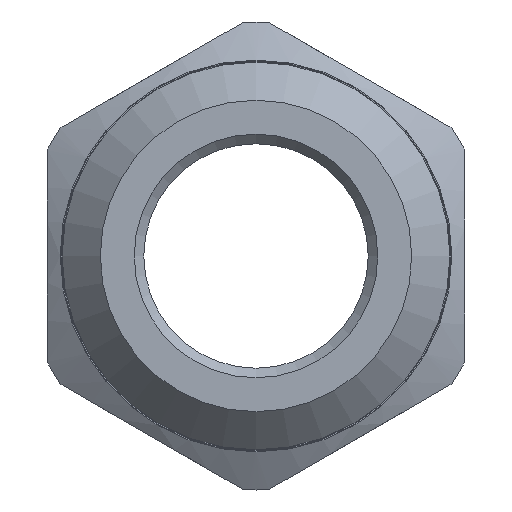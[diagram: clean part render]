
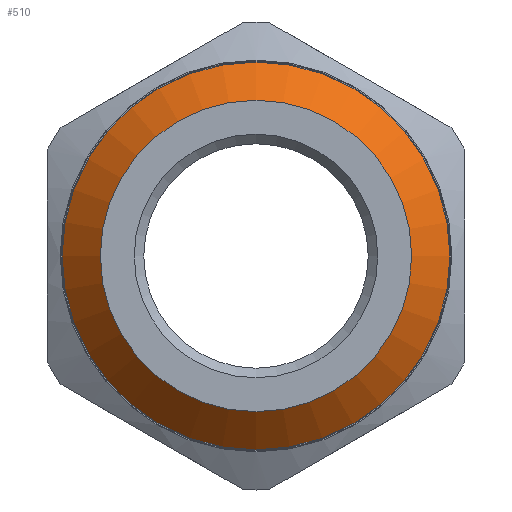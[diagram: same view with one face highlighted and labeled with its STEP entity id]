
A CAD part, front view. The second image highlights one B-rep face of the part: STEP entity #510.
In plain terms, the highlighted conical face has half-angle 45 degrees and reference radius 4.648 mm.
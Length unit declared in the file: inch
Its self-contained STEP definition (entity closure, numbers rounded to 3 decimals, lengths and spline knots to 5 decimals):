
#77=FACE_OUTER_BOUND('',#110,.T.);
#110=EDGE_LOOP('',(#441,#442,#443,#444,#445));
#137=LINE('',#909,#160);
#160=VECTOR('',#720,0.183);
#173=CIRCLE('',#544,0.163);
#194=CIRCLE('',#582,0.203);
#195=CIRCLE('',#583,0.203);
#213=VERTEX_POINT('',#787);
#246=VERTEX_POINT('',#908);
#247=VERTEX_POINT('',#910);
#268=EDGE_CURVE('',#213,#213,#173,.T.);
#315=EDGE_CURVE('',#213,#246,#137,.T.);
#316=EDGE_CURVE('',#246,#247,#194,.T.);
#317=EDGE_CURVE('',#247,#246,#195,.T.);
#441=ORIENTED_EDGE('',*,*,#268,.T.);
#442=ORIENTED_EDGE('',*,*,#315,.T.);
#443=ORIENTED_EDGE('',*,*,#316,.T.);
#444=ORIENTED_EDGE('',*,*,#317,.T.);
#445=ORIENTED_EDGE('',*,*,#315,.F.);
#487=CONICAL_SURFACE('',#581,0.183,0.785);
#510=ADVANCED_FACE('',(#77),#487,.T.);
#544=AXIS2_PLACEMENT_3D('',#788,#630,#631);
#581=AXIS2_PLACEMENT_3D('',#907,#718,#719);
#582=AXIS2_PLACEMENT_3D('',#911,#721,#722);
#583=AXIS2_PLACEMENT_3D('',#912,#723,#724);
#630=DIRECTION('center_axis',(0.,1.,0.));
#631=DIRECTION('ref_axis',(0.,0.,1.));
#718=DIRECTION('center_axis',(0.,1.,0.));
#719=DIRECTION('ref_axis',(0.,0.,1.));
#720=DIRECTION('',(0.,0.707,-0.707));
#721=DIRECTION('center_axis',(0.,-1.,0.));
#722=DIRECTION('ref_axis',(0.,0.,1.));
#723=DIRECTION('center_axis',(0.,-1.,0.));
#724=DIRECTION('ref_axis',(0.,0.,1.));
#787=CARTESIAN_POINT('',(0.,0.,-0.163));
#788=CARTESIAN_POINT('Origin',(0.,0.,0.));
#907=CARTESIAN_POINT('Origin',(0.,0.02,0.));
#908=CARTESIAN_POINT('',(0.,0.04,-0.203));
#909=CARTESIAN_POINT('',(0.,0.02,-0.183));
#910=CARTESIAN_POINT('',(0.,0.04,0.203));
#911=CARTESIAN_POINT('Origin',(0.,0.04,0.));
#912=CARTESIAN_POINT('Origin',(0.,0.04,0.));
